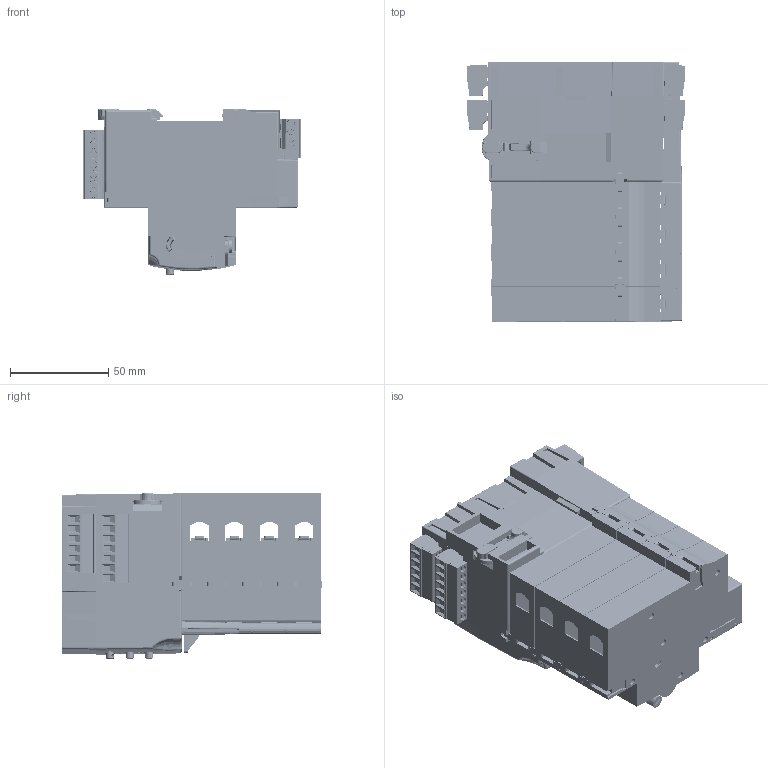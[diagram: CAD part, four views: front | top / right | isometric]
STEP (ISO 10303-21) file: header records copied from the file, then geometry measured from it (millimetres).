
FILE_DESCRIPTION((''),'2;1');
FILE_NAME('010259_4M','2019-09-13T',('esors'),(''),'CREO PARAMETRIC BY PTC INC, 2015290','CREO PARAMETRIC BY PTC INC, 2015290','');
FILE_SCHEMA(('AUTOMOTIVE_DESIGN { 1 0 10303 214 1 1 1 1 }'));
Products named in the file (1): 010259_4M
Bounding box: 111.25 x 132.95 x 84.7 mm (x, y, z)
Volume: 124268.5 mm3; surface area: 253554.8 mm2
Topology: 19 solids, 28 shells, 9668 faces, 27647 edges, 18341 vertices
Faces by surface type: plane 6984, cylinder 1725, cone 355, extrusion 294, torus 154, bspline 117, sphere 35, revolution 4
Entity records: 327822 total; most frequent: CARTESIAN_POINT 74000, ORIENTED_EDGE 55244, DIRECTION 48203, EDGE_CURVE 27631, VECTOR 20893, LINE 20599, VERTEX_POINT 18341, AXIS2_PLACEMENT_3D 13653
